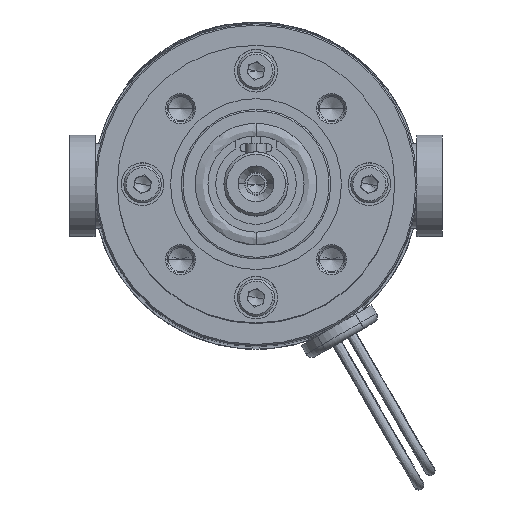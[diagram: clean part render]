
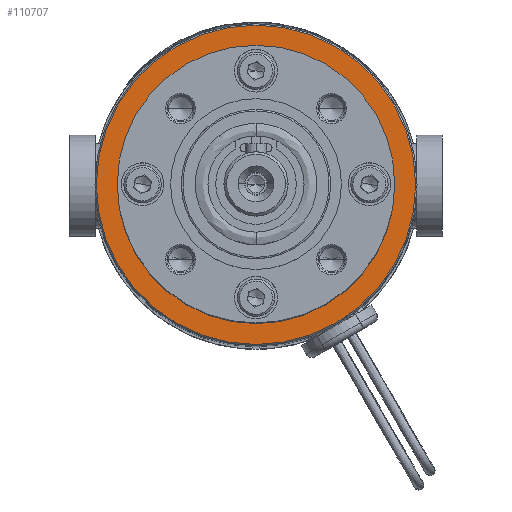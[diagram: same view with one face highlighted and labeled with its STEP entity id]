
A CAD part, top view. The second image highlights one B-rep face of the part: STEP entity #110707.
In plain terms, the highlighted planar face has unit normal (0, 0, 1).
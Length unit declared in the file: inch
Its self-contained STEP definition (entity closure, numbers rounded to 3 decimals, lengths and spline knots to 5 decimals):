
#1102 = AXIS2_PLACEMENT_3D ( 'NONE', #94401, #36179, #104177 ) ;
#1546 = CARTESIAN_POINT ( 'NONE',  ( 0.9595, 0., -0.68406 ) ) ;
#1952 = CARTESIAN_POINT ( 'NONE',  ( 0., 1.1875, -0.68406 ) ) ;
#8252 = ORIENTED_EDGE ( 'NONE', *, *, #54228, .F. ) ;
#10853 = ORIENTED_EDGE ( 'NONE', *, *, #88051, .T. ) ;
#11383 = PLANE ( 'NONE',  #63304 ) ;
#11800 = DIRECTION ( 'NONE',  ( 1., 0., 0. ) ) ;
#12673 = FACE_OUTER_BOUND ( 'NONE', #19374, .T. ) ;
#15683 = ORIENTED_EDGE ( 'NONE', *, *, #35899, .F. ) ;
#16628 = DIRECTION ( 'NONE',  ( 0., 0., 1. ) ) ;
#17640 = CARTESIAN_POINT ( 'NONE',  ( 1.1775, 0., -0.68406 ) ) ;
#19374 = EDGE_LOOP ( 'NONE', ( #37424, #10853 ) ) ;
#20997 = DIRECTION ( 'NONE',  ( 0., 0., 1. ) ) ;
#22458 = CIRCLE ( 'NONE', #31951, 0.9595 ) ;
#29746 = CARTESIAN_POINT ( 'NONE',  ( -1.1775, 0., -0.68406 ) ) ;
#31951 = AXIS2_PLACEMENT_3D ( 'NONE', #58629, #126500, #68315 ) ;
#35700 = EDGE_CURVE ( 'NONE', #111319, #55419, #76554, .T. ) ;
#35899 = EDGE_CURVE ( 'NONE', #54078, #80373, #38376, .T. ) ;
#36179 = DIRECTION ( 'NONE',  ( 0., 0., 1. ) ) ;
#37424 = ORIENTED_EDGE ( 'NONE', *, *, #35700, .T. ) ;
#38376 = CIRCLE ( 'NONE', #1102, 0.9595 ) ;
#39179 = EDGE_LOOP ( 'NONE', ( #8252, #15683 ) ) ;
#54078 = VERTEX_POINT ( 'NONE', #94680 ) ;
#54228 = EDGE_CURVE ( 'NONE', #80373, #54078, #22458, .T. ) ;
#55419 = VERTEX_POINT ( 'NONE', #17640 ) ;
#58554 = AXIS2_PLACEMENT_3D ( 'NONE', #75135, #16628, #84889 ) ;
#58629 = CARTESIAN_POINT ( 'NONE',  ( 0., 0., -0.68406 ) ) ;
#61677 = FACE_BOUND ( 'NONE', #39179, .T. ) ;
#63304 = AXIS2_PLACEMENT_3D ( 'NONE', #1952, #70335, #11800 ) ;
#68315 = DIRECTION ( 'NONE',  ( 1., 0., 0. ) ) ;
#70335 = DIRECTION ( 'NONE',  ( 0., 0., 1. ) ) ;
#75135 = CARTESIAN_POINT ( 'NONE',  ( 0., 0., -0.68406 ) ) ;
#76554 = CIRCLE ( 'NONE', #58554, 1.1775 ) ;
#79367 = CARTESIAN_POINT ( 'NONE',  ( 0., 0., -0.68406 ) ) ;
#80373 = VERTEX_POINT ( 'NONE', #1546 ) ;
#84889 = DIRECTION ( 'NONE',  ( 1., 0., 0. ) ) ;
#88051 = EDGE_CURVE ( 'NONE', #55419, #111319, #107994, .T. ) ;
#89116 = DIRECTION ( 'NONE',  ( 1., 0., 0. ) ) ;
#94401 = CARTESIAN_POINT ( 'NONE',  ( 0., 0., -0.68406 ) ) ;
#94680 = CARTESIAN_POINT ( 'NONE',  ( -0.9595, 0., -0.68406 ) ) ;
#104177 = DIRECTION ( 'NONE',  ( 1., 0., 0. ) ) ;
#107994 = CIRCLE ( 'NONE', #112605, 1.1775 ) ;
#110707 = ADVANCED_FACE ( 'NONE', ( #12673, #61677 ), #11383, .T. ) ;
#111319 = VERTEX_POINT ( 'NONE', #29746 ) ;
#112605 = AXIS2_PLACEMENT_3D ( 'NONE', #79367, #20997, #89116 ) ;
#126500 = DIRECTION ( 'NONE',  ( 0., 0., 1. ) ) ;
